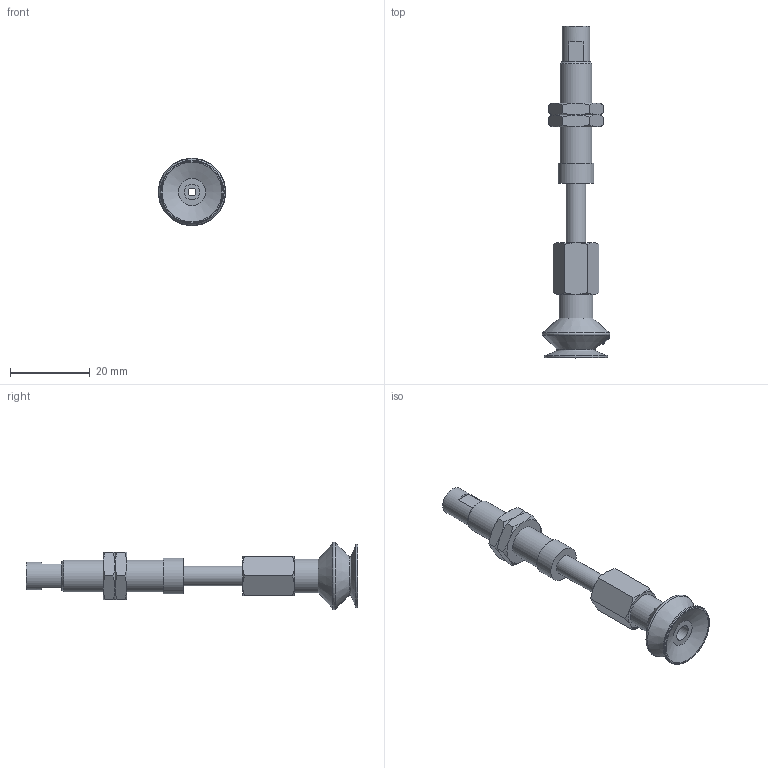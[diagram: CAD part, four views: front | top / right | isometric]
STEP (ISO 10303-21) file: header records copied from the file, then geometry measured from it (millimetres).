
FILE_DESCRIPTION(('STEP AP203'),'1');
FILE_NAME('.stp','2025-08-27T01:06:05',(' '),(' '),'Spatial InterOp 3D',' ',' ');
FILE_SCHEMA(('CONFIG_CONTROL_DESIGN'));
Length unit declared in the file: millimetre
Products named in the file (8): BNABPBTS-15A-15-※; ADAPTER; NAPATS-10A-15--M; Nut-15A-S-PB; NAPBTS-15A-15--F; BPBG-15A-※; __27; BPBG-15A
Assembly tree (8 placements, depth 3):
  BNABPBTS-15A-15-※
    ADAPTER
    NAPATS-10A-15--M
    Nut-15A-S-PB  x2
    NAPBTS-15A-15--F
    BPBG-15A-※
      __27
      BPBG-15A
Bounding box: 17 x 83.5 x 17 mm (x, y, z)
Volume: 5027.9 mm3; surface area: 5423.5 mm2
Topology: 7 solids, 7 shells, 128 faces, 272 edges, 166 vertices
Faces by surface type: cone 50, plane 42, cylinder 17, torus 11, bspline 8
Full cylindrical faces by diameter (mm): 2 x2, 4 x3, 4.134 x1, 5 x2, 6 x2, 7 x1, 7.188 x2, 8 x1, 8.5 x1, 9 x1, 16 x1
Entity records: 4261 total; most frequent: CARTESIAN_POINT 1885, DIRECTION 405, ORIENTED_EDGE 350, AXIS2_PLACEMENT_3D 188, EDGE_CURVE 175, EDGE_LOOP 159, FACE_OUTER_BOUND 132, VERTEX_POINT 126
